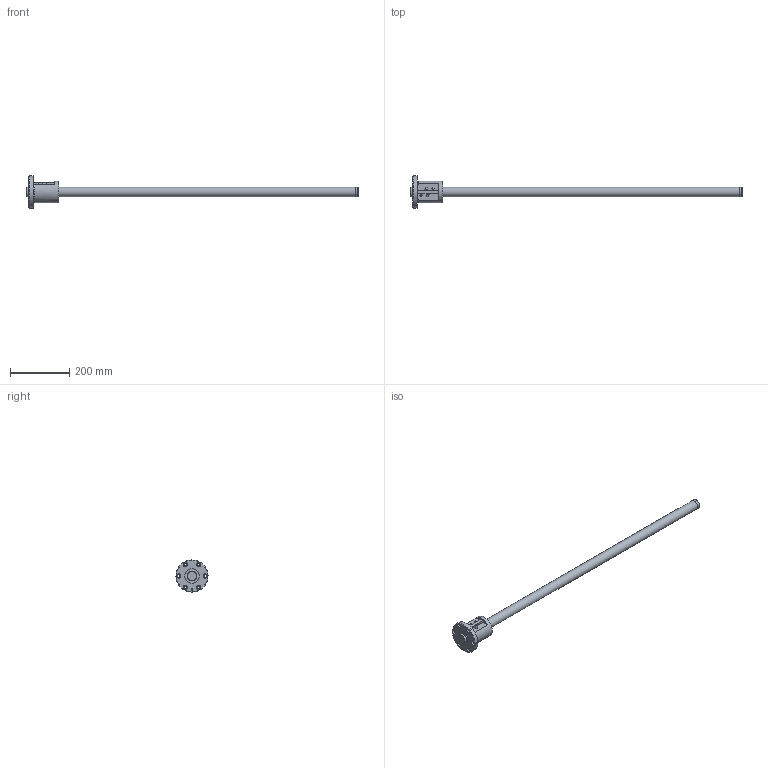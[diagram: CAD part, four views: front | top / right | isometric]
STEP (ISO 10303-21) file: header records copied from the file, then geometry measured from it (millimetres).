
FILE_DESCRIPTION( ( 'STEP AP203' ), ' ' );
FILE_NAME( 'p:/temp/worker_50/3228_2824/app_80_12018011812082063644045818fa3fd_000000_00_00_000000/format_0/BIF3210A-5RRG0+1120LC0_10000.stp', '2018-01-18T11:08:21', ( '' ), ( '' ), ' ', 'PARTsolutions', ' ' );
FILE_SCHEMA( ( 'CONFIG_CONTROL_DESIGN' ) );
Length unit declared in the file: millimetre
Products named in the file (3): BIF3210A-5RRG0+1120LC0_10000; _BIF 3210A-5RR1000500 Shaft; _BIF 3210A-5RR Nut
Assembly tree (2 placements, depth 2):
  BIF3210A-5RRG0+1120LC0_10000
    _BIF 3210A-5RR1000500 Shaft
    _BIF 3210A-5RR Nut
Bounding box: 1120 x 108 x 108 mm (x, y, z)
Volume: 1274438.5 mm3; surface area: 171568.9 mm2
Topology: 2 solids, 2 shells, 82 faces, 178 edges, 113 vertices
Faces by surface type: cylinder 39, plane 31, cone 8, torus 4
Full cylindrical faces by diameter (mm): 4.25 x2, 4.917 x1, 7 x4, 9 x6, 14 x6, 31.5 x2, 32 x4, 49.2 x2, 74 x1, 108 x1
Entity records: 2538 total; most frequent: CARTESIAN_POINT 747, DIRECTION 376, ORIENTED_EDGE 262, AXIS2_PLACEMENT_3D 172, EDGE_LOOP 156, EDGE_CURVE 131, FACE_OUTER_BOUND 111, VERTEX_POINT 103
